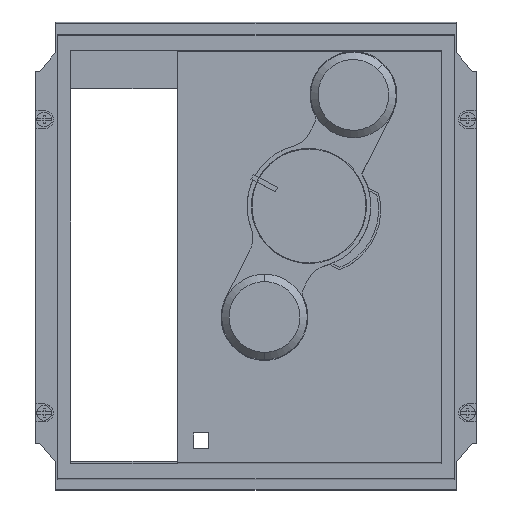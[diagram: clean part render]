
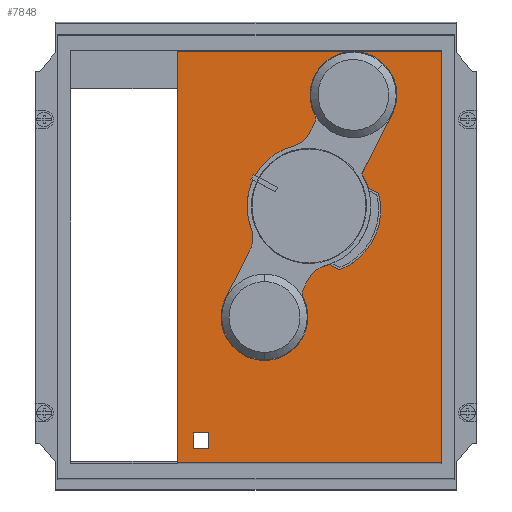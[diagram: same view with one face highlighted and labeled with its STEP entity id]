
A CAD part, top view. The second image highlights one B-rep face of the part: STEP entity #7848.
In plain terms, the highlighted planar face has unit normal (0, 0, 1).
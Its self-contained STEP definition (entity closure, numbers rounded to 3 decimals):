
#2526=DIRECTION('',(0.,1.,0.));
#2527=VECTOR('',#2526,194.39);
#2528=CARTESIAN_POINT('',(66.71,12.709,90.5));
#2529=LINE('',#2528,#2527);
#2533=DIRECTION('',(1.,0.,0.));
#2534=VECTOR('',#2533,124.69);
#2535=CARTESIAN_POINT('',(66.71,207.099,90.5));
#2536=LINE('',#2535,#2534);
#2540=DIRECTION('',(0.,-1.,0.));
#2541=VECTOR('',#2540,194.39);
#2542=CARTESIAN_POINT('',(191.4,207.099,90.5));
#2543=LINE('',#2542,#2541);
#2547=CARTESIAN_POINT('',(128.9,133.9,90.5));
#2548=DIRECTION('',(0.,0.,1.));
#2549=DIRECTION('',(1.,0.,0.));
#2550=AXIS2_PLACEMENT_3D('',#2547,#2548,#2549);
#2555=CARTESIAN_POINT('',(128.9,133.9,90.5));
#2556=DIRECTION('',(0.,0.,1.));
#2557=DIRECTION('',(-1.,0.,0.));
#2558=AXIS2_PLACEMENT_3D('',#2555,#2556,#2557);
#2563=DIRECTION('',(0.,-1.,0.));
#2564=VECTOR('',#2563,7.2);
#2565=CARTESIAN_POINT('',(74.4,26.8,90.5));
#2566=LINE('',#2565,#2564);
#2570=DIRECTION('',(1.,0.,0.));
#2571=VECTOR('',#2570,7.2);
#2572=CARTESIAN_POINT('',(74.4,19.6,90.5));
#2573=LINE('',#2572,#2571);
#2577=DIRECTION('',(0.,1.,0.));
#2578=VECTOR('',#2577,7.2);
#2579=CARTESIAN_POINT('',(81.6,19.6,90.5));
#2580=LINE('',#2579,#2578);
#2584=DIRECTION('',(-1.,0.,0.));
#2585=VECTOR('',#2584,7.2);
#2586=CARTESIAN_POINT('',(81.6,26.8,90.5));
#2587=LINE('',#2586,#2585);
#2682=DIRECTION('',(1.,0.,0.));
#2683=VECTOR('',#2682,124.69);
#2684=CARTESIAN_POINT('',(66.71,12.709,90.5));
#2685=LINE('',#2684,#2683);
#4550=CARTESIAN_POINT('',(191.4,207.099,90.5));
#4551=VERTEX_POINT('',#4550);
#4552=CARTESIAN_POINT('',(191.4,12.709,90.5));
#4553=VERTEX_POINT('',#4552);
#4558=CARTESIAN_POINT('',(66.71,12.709,90.5));
#4559=CARTESIAN_POINT('',(66.71,207.099,90.5));
#4560=VERTEX_POINT('',#4558);
#4561=VERTEX_POINT('',#4559);
#4618=CARTESIAN_POINT('',(156.8,133.9,90.5));
#4619=CARTESIAN_POINT('',(101.,133.9,90.5));
#4620=VERTEX_POINT('',#4618);
#4621=VERTEX_POINT('',#4619);
#4952=CARTESIAN_POINT('',(74.4,26.8,90.5));
#4953=CARTESIAN_POINT('',(74.4,19.6,90.5));
#4954=VERTEX_POINT('',#4952);
#4955=VERTEX_POINT('',#4953);
#4956=CARTESIAN_POINT('',(81.6,19.6,90.5));
#4957=VERTEX_POINT('',#4956);
#4958=CARTESIAN_POINT('',(81.6,26.8,90.5));
#4959=VERTEX_POINT('',#4958);
#7818=CARTESIAN_POINT('',(0.,207.099,90.5));
#7819=DIRECTION('',(0.,0.,1.));
#7820=DIRECTION('',(0.,-1.,0.));
#7821=AXIS2_PLACEMENT_3D('',#7818,#7819,#7820);
#7822=PLANE('',#7821);
#7824=ORIENTED_EDGE('',*,*,#7823,.T.);
#7826=ORIENTED_EDGE('',*,*,#7825,.T.);
#7828=ORIENTED_EDGE('',*,*,#7827,.T.);
#7830=ORIENTED_EDGE('',*,*,#7829,.F.);
#7831=EDGE_LOOP('',(#7824,#7826,#7828,#7830));
#7832=FACE_OUTER_BOUND('',#7831,.F.);
#7834=ORIENTED_EDGE('',*,*,#7833,.T.);
#7836=ORIENTED_EDGE('',*,*,#7835,.T.);
#7837=EDGE_LOOP('',(#7834,#7836));
#7838=FACE_BOUND('',#7837,.F.);
#7839=ORIENTED_EDGE('',*,*,#7808,.T.);
#7841=ORIENTED_EDGE('',*,*,#7840,.T.);
#7843=ORIENTED_EDGE('',*,*,#7842,.T.);
#7845=ORIENTED_EDGE('',*,*,#7844,.T.);
#7846=EDGE_LOOP('',(#7839,#7841,#7843,#7845));
#7847=FACE_BOUND('',#7846,.F.);
#2551=CIRCLE('',#2550,27.9);
#2559=CIRCLE('',#2558,27.9);
#7808=EDGE_CURVE('',#4954,#4955,#2566,.T.);
#7823=EDGE_CURVE('',#4560,#4561,#2529,.T.);
#7825=EDGE_CURVE('',#4561,#4551,#2536,.T.);
#7827=EDGE_CURVE('',#4551,#4553,#2543,.T.);
#7829=EDGE_CURVE('',#4560,#4553,#2685,.T.);
#7833=EDGE_CURVE('',#4620,#4621,#2551,.T.);
#7835=EDGE_CURVE('',#4621,#4620,#2559,.T.);
#7840=EDGE_CURVE('',#4955,#4957,#2573,.T.);
#7842=EDGE_CURVE('',#4957,#4959,#2580,.T.);
#7844=EDGE_CURVE('',#4959,#4954,#2587,.T.);
#7848=ADVANCED_FACE('',(#7832,#7838,#7847),#7822,.T.);
